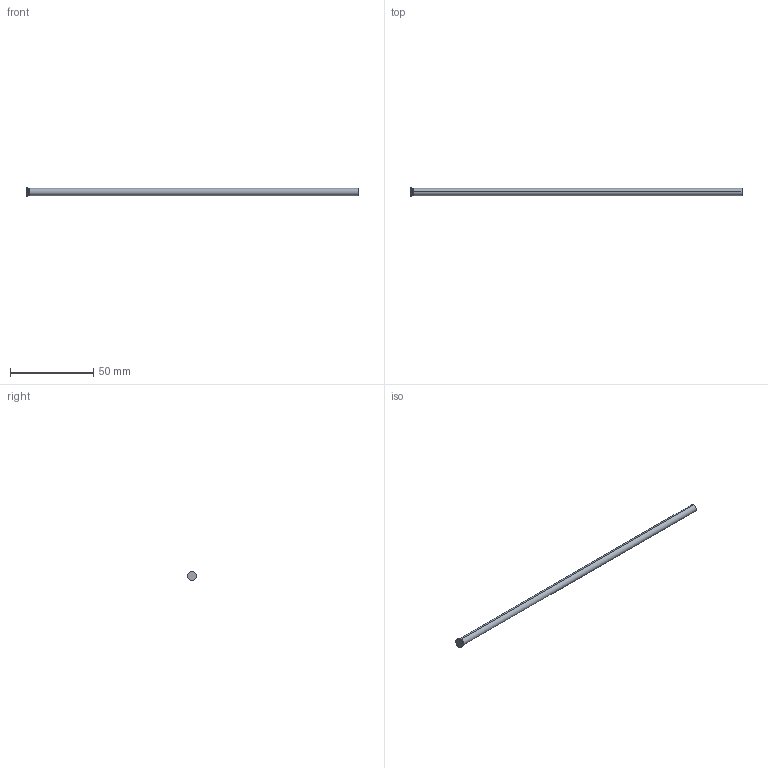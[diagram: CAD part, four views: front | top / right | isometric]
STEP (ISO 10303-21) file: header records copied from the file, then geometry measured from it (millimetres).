
FILE_DESCRIPTION (( 'STEP AP214' ), '1' );
FILE_NAME ('D-4,4x200.STEP', '2020-06-08T11:23:45', ( 'August' ), ( '' ), 'SwSTEP 2.0', 'SolidWorks 2018', '' );
FILE_SCHEMA (( 'AUTOMOTIVE_DESIGN' ));
Length unit declared in the file: millimetre
Products named in the file (1): D-4,4x200
Bounding box: 200 x 5.5 x 5.5 mm (x, y, z)
Volume: 3050.5 mm3; surface area: 2809.6 mm2
Topology: 1 solids, 1 shells, 10 faces, 18 edges, 10 vertices
Faces by surface type: cylinder 4, torus 2, cone 2, plane 2
Entity records: 280 total; most frequent: DIRECTION 52, CARTESIAN_POINT 39, ORIENTED_EDGE 36, AXIS2_PLACEMENT_3D 23, EDGE_CURVE 18, CIRCLE 12, ADVANCED_FACE 10, VERTEX_POINT 10
